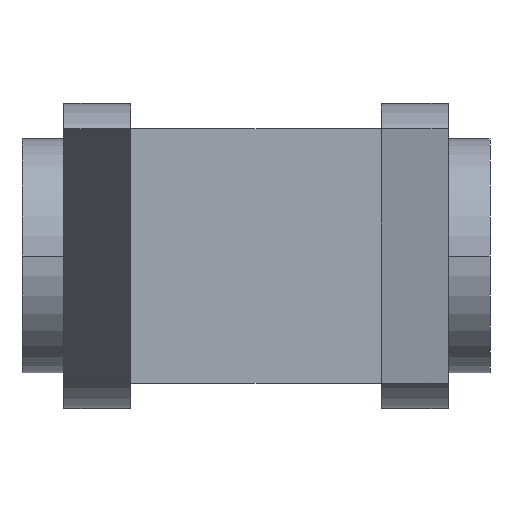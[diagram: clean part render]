
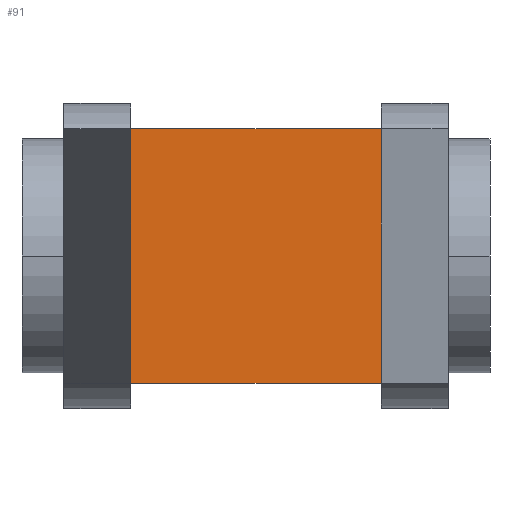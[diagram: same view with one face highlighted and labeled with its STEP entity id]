
A CAD part, front view. The second image highlights one B-rep face of the part: STEP entity #91.
In plain terms, the highlighted planar face has unit normal (0, -1, 0).
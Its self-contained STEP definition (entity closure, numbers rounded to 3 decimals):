
#37 = VECTOR ( 'NONE', #489, 1000. ) ;
#49 = EDGE_CURVE ( 'NONE', #214, #805, #227, .T. ) ;
#91 = ADVANCED_FACE ( 'NONE', ( #488 ), #273, .F. ) ;
#114 = DIRECTION ( 'NONE',  ( 1., 0., 0. ) ) ;
#122 = VECTOR ( 'NONE', #408, 1000. ) ;
#145 = ORIENTED_EDGE ( 'NONE', *, *, #344, .F. ) ;
#146 = CARTESIAN_POINT ( 'NONE',  ( 75., 0., -76. ) ) ;
#157 = CARTESIAN_POINT ( 'NONE',  ( -75., 0., -76. ) ) ;
#171 = EDGE_CURVE ( 'NONE', #441, #214, #701, .T. ) ;
#213 = CARTESIAN_POINT ( 'NONE',  ( 75., 0., 76. ) ) ;
#214 = VERTEX_POINT ( 'NONE', #157 ) ;
#222 = VECTOR ( 'NONE', #114, 1000. ) ;
#224 = EDGE_CURVE ( 'NONE', #758, #805, #829, .T. ) ;
#227 = LINE ( 'NONE', #605, #122 ) ;
#245 = CARTESIAN_POINT ( 'NONE',  ( -75., 0., 76. ) ) ;
#257 = AXIS2_PLACEMENT_3D ( 'NONE', #213, #872, #762 ) ;
#273 = PLANE ( 'NONE',  #257 ) ;
#287 = CARTESIAN_POINT ( 'NONE',  ( -75., 0., 76. ) ) ;
#344 = EDGE_CURVE ( 'NONE', #441, #758, #713, .T. ) ;
#360 = VECTOR ( 'NONE', #571, 1000. ) ;
#388 = CARTESIAN_POINT ( 'NONE',  ( 75., 0., 76. ) ) ;
#408 = DIRECTION ( 'NONE',  ( 1., 0., 0. ) ) ;
#441 = VERTEX_POINT ( 'NONE', #245 ) ;
#488 = FACE_OUTER_BOUND ( 'NONE', #657, .T. ) ;
#489 = DIRECTION ( 'NONE',  ( 0., 0., -1. ) ) ;
#506 = ORIENTED_EDGE ( 'NONE', *, *, #171, .T. ) ;
#507 = CARTESIAN_POINT ( 'NONE',  ( 75., 0., 76. ) ) ;
#571 = DIRECTION ( 'NONE',  ( 0., 0., -1. ) ) ;
#605 = CARTESIAN_POINT ( 'NONE',  ( 75., 0., -76. ) ) ;
#622 = ORIENTED_EDGE ( 'NONE', *, *, #49, .T. ) ;
#657 = EDGE_LOOP ( 'NONE', ( #622, #822, #145, #506 ) ) ;
#701 = LINE ( 'NONE', #287, #360 ) ;
#713 = LINE ( 'NONE', #388, #222 ) ;
#753 = CARTESIAN_POINT ( 'NONE',  ( 75., 0., 76. ) ) ;
#758 = VERTEX_POINT ( 'NONE', #753 ) ;
#762 = DIRECTION ( 'NONE',  ( -1., 0., 0. ) ) ;
#805 = VERTEX_POINT ( 'NONE', #146 ) ;
#822 = ORIENTED_EDGE ( 'NONE', *, *, #224, .F. ) ;
#829 = LINE ( 'NONE', #507, #37 ) ;
#872 = DIRECTION ( 'NONE',  ( 0., 1., 0. ) ) ;
